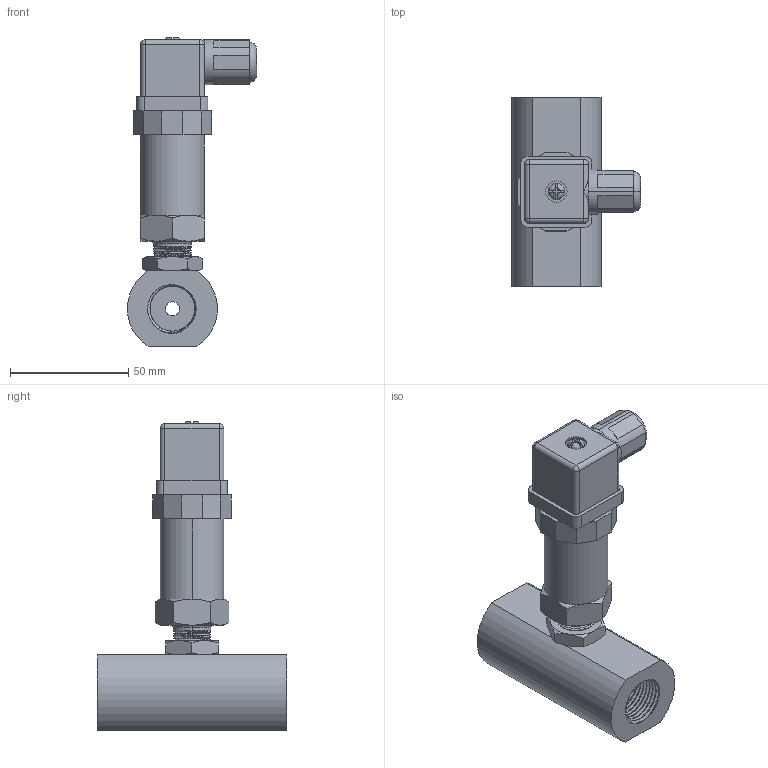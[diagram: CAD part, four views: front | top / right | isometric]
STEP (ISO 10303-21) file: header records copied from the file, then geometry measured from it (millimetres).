
FILE_DESCRIPTION( (''), '2;1');
FILE_NAME( 'QTKB_DN6_female-thread_DIN-plug.step', '2024-10-14T08:14:02+08:00', (''), (''), '', '', '');
FILE_SCHEMA (('AUTOMOTIVE_DESIGN { 1 0 10303 214 3 1 1 1 }'));
Length unit declared in the file: millimetre
Products named in the file (1): QTKB DN6_female-thread_DIN-plug
Bounding box: 54.5 x 80 x 130.5 mm (x, y, z)
Volume: 133420.4 mm3; surface area: 37089.8 mm2
Topology: 5 solids, 6 shells, 367 faces, 983 edges, 643 vertices
Faces by surface type: plane 243, cylinder 55, cone 39, bspline 22, torus 4, sphere 4
Full cylindrical faces by diameter (mm): 6 x1, 15 x1
Entity records: 18785 total; most frequent: CARTESIAN_POINT 9795, ORIENTED_EDGE 1950, DIRECTION 1681, EDGE_CURVE 975, VERTEX_POINT 642, LINE 635, VECTOR 635, AXIS2_PLACEMENT_3D 523
